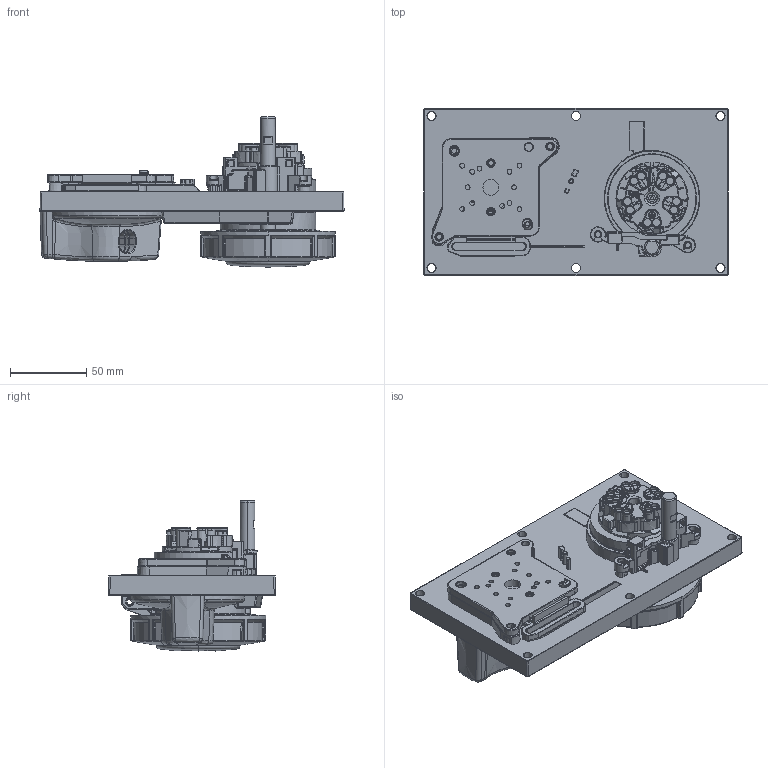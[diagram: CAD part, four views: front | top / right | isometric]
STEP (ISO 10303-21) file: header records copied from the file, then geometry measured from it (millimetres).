
FILE_DESCRIPTION((''),'2;1');
FILE_NAME('7526___','2017-10-24T',('fries'),('MENNEKES'),'PRO/ENGINEER BY PARAMETRIC TECHNOLOGY CORPORATION, 2015440','PRO/ENGINEER BY PARAMETRIC TECHNOLOGY CORPORATION, 2015440','');
FILE_SCHEMA(('AUTOMOTIVE_DESIGN { 1 0 10303 214 1 1 1 1 }'));
Products named in the file (1): 7526___
Bounding box: 199.98 x 109.98 x 98.69 mm (x, y, z)
Volume: 630763.4 mm3; surface area: 103432.7 mm2
Topology: 1 solids, 2 shells, 3730 faces, 9749 edges, 5943 vertices
Faces by surface type: plane 1330, cylinder 1005, torus 540, bspline 468, cone 244, sphere 143
Entity records: 159790 total; most frequent: CARTESIAN_POINT 45497, ORIENTED_EDGE 19192, DIRECTION 17434, EDGE_CURVE 9596, AXIS2_PLACEMENT_3D 6549, VERTEX_POINT 5943, VECTOR 4336, LINE 4336
